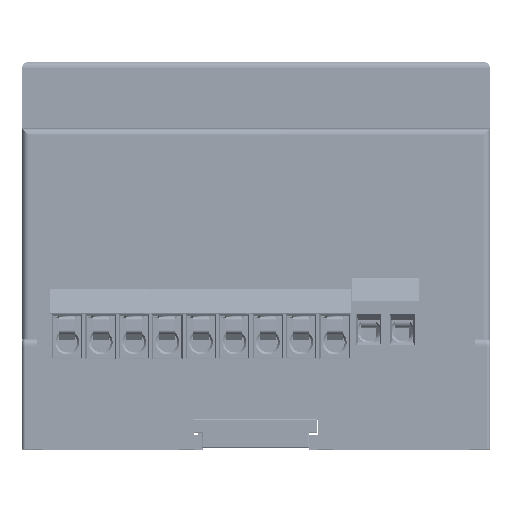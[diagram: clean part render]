
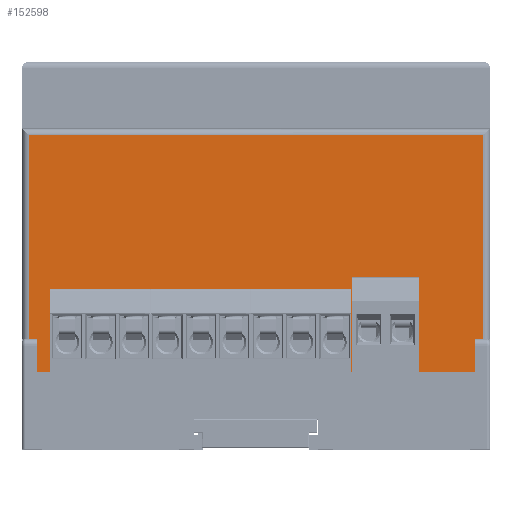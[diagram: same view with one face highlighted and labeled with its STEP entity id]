
A CAD part, top view. The second image highlights one B-rep face of the part: STEP entity #152598.
In plain terms, the highlighted planar face has unit normal (0, 0, 1).
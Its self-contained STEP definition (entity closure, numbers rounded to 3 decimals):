
#1485 = ORIENTED_EDGE ( 'NONE', *, *, #138026, .T. ) ;
#2347 = VERTEX_POINT ( 'NONE', #180969 ) ;
#4109 = CARTESIAN_POINT ( 'NONE',  ( 1., 30.5, 0. ) ) ;
#4410 = LINE ( 'NONE', #123257, #208210 ) ;
#8397 = DIRECTION ( 'NONE',  ( 0., 1., 0. ) ) ;
#18750 = VECTOR ( 'NONE', #81989, 1000. ) ;
#23289 = CARTESIAN_POINT ( 'NONE',  ( 1., -9., 0. ) ) ;
#26821 = CARTESIAN_POINT ( 'NONE',  ( 69., 30.5, 0. ) ) ;
#27036 = ORIENTED_EDGE ( 'NONE', *, *, #94951, .T. ) ;
#27483 = VERTEX_POINT ( 'NONE', #234122 ) ;
#28577 = LINE ( 'NONE', #132168, #76383 ) ;
#30549 = ORIENTED_EDGE ( 'NONE', *, *, #168298, .T. ) ;
#30643 = DIRECTION ( 'NONE',  ( 0., -1., 0. ) ) ;
#32287 = VECTOR ( 'NONE', #70987, 1000. ) ;
#38116 = EDGE_CURVE ( 'NONE', #222408, #208469, #168797, .T. ) ;
#41796 = CARTESIAN_POINT ( 'NONE',  ( 1.5, -6.5, 0. ) ) ;
#48502 = CARTESIAN_POINT ( 'NONE',  ( 69., 31.5, 0. ) ) ;
#54061 = CARTESIAN_POINT ( 'NONE',  ( 1.5, -5., 0. ) ) ;
#59401 = ORIENTED_EDGE ( 'NONE', *, *, #128062, .F. ) ;
#61026 = DIRECTION ( 'NONE',  ( -1., 0., 0. ) ) ;
#62257 = DIRECTION ( 'NONE',  ( 0.707, 0.707, 0. ) ) ;
#62723 = DIRECTION ( 'NONE',  ( 1., 0., 0. ) ) ;
#70987 = DIRECTION ( 'NONE',  ( 0., -1., 0. ) ) ;
#72068 = CARTESIAN_POINT ( 'NONE',  ( 1.5, -5., 0. ) ) ;
#75993 = CARTESIAN_POINT ( 'NONE',  ( 67., -5., 0. ) ) ;
#76383 = VECTOR ( 'NONE', #30643, 1000. ) ;
#77589 = CARTESIAN_POINT ( 'NONE',  ( 0., 31.5, 0. ) ) ;
#81956 = CARTESIAN_POINT ( 'NONE',  ( 69., -9., 0. ) ) ;
#81989 = DIRECTION ( 'NONE',  ( 0., -1., 0. ) ) ;
#86944 = ORIENTED_EDGE ( 'NONE', *, *, #173310, .T. ) ;
#89663 = EDGE_CURVE ( 'NONE', #208185, #251364, #177351, .T. ) ;
#94951 = EDGE_CURVE ( 'NONE', #2347, #222408, #217394, .T. ) ;
#95209 = LINE ( 'NONE', #72068, #142962 ) ;
#98111 = DIRECTION ( 'NONE',  ( 0., 0., -1. ) ) ;
#101737 = CARTESIAN_POINT ( 'NONE',  ( 1.5, -9., 0. ) ) ;
#109095 = VECTOR ( 'NONE', #242775, 1000. ) ;
#114368 = EDGE_CURVE ( 'NONE', #185417, #166899, #28577, .T. ) ;
#114645 = VECTOR ( 'NONE', #8397, 1000. ) ;
#114713 = VECTOR ( 'NONE', #61026, 1000. ) ;
#115857 = VERTEX_POINT ( 'NONE', #101737 ) ;
#120079 = CARTESIAN_POINT ( 'NONE',  ( 70., -9., 0. ) ) ;
#122888 = ORIENTED_EDGE ( 'NONE', *, *, #38116, .T. ) ;
#123257 = CARTESIAN_POINT ( 'NONE',  ( 1.5, -9., 0. ) ) ;
#128062 = EDGE_CURVE ( 'NONE', #27483, #115857, #236112, .T. ) ;
#129338 = EDGE_LOOP ( 'NONE', ( #157745, #86944, #59401, #30549, #229457, #172258, #140016, #27036, #122888, #1485 ) ) ;
#132168 = CARTESIAN_POINT ( 'NONE',  ( 1., 31.5, 0. ) ) ;
#138026 = EDGE_CURVE ( 'NONE', #208469, #185417, #168875, .T. ) ;
#140016 = ORIENTED_EDGE ( 'NONE', *, *, #176010, .T. ) ;
#140815 = DIRECTION ( 'NONE',  ( 0.707, -0.707, 0. ) ) ;
#142962 = VECTOR ( 'NONE', #234922, 1000. ) ;
#144113 = CARTESIAN_POINT ( 'NONE',  ( 3., -5., 0. ) ) ;
#152598 = ADVANCED_FACE ( 'NONE', ( #200339 ), #199557, .F. ) ;
#157745 = ORIENTED_EDGE ( 'NONE', *, *, #114368, .T. ) ;
#166899 = VERTEX_POINT ( 'NONE', #23289 ) ;
#168298 = EDGE_CURVE ( 'NONE', #27483, #174396, #186256, .T. ) ;
#168797 = LINE ( 'NONE', #48502, #114645 ) ;
#168875 = LINE ( 'NONE', #263845, #114713 ) ;
#172258 = ORIENTED_EDGE ( 'NONE', *, *, #89663, .T. ) ;
#173310 = EDGE_CURVE ( 'NONE', #166899, #115857, #4410, .T. ) ;
#174396 = VERTEX_POINT ( 'NONE', #144113 ) ;
#176010 = EDGE_CURVE ( 'NONE', #251364, #2347, #181303, .T. ) ;
#177351 = LINE ( 'NONE', #221824, #237700 ) ;
#180969 = CARTESIAN_POINT ( 'NONE',  ( 68.5, -9., 0. ) ) ;
#181303 = LINE ( 'NONE', #243880, #18750 ) ;
#185417 = VERTEX_POINT ( 'NONE', #4109 ) ;
#186256 = LINE ( 'NONE', #41796, #227478 ) ;
#199557 = PLANE ( 'NONE',  #231486 ) ;
#200339 = FACE_OUTER_BOUND ( 'NONE', #129338, .T. ) ;
#208185 = VERTEX_POINT ( 'NONE', #75993 ) ;
#208210 = VECTOR ( 'NONE', #62723, 1000. ) ;
#208469 = VERTEX_POINT ( 'NONE', #26821 ) ;
#217394 = LINE ( 'NONE', #120079, #109095 ) ;
#221824 = CARTESIAN_POINT ( 'NONE',  ( 67., -5., 0. ) ) ;
#222408 = VERTEX_POINT ( 'NONE', #81956 ) ;
#227478 = VECTOR ( 'NONE', #62257, 1000. ) ;
#229457 = ORIENTED_EDGE ( 'NONE', *, *, #230468, .F. ) ;
#230468 = EDGE_CURVE ( 'NONE', #208185, #174396, #95209, .T. ) ;
#231486 = AXIS2_PLACEMENT_3D ( 'NONE', #77589, #98111, #240404 ) ;
#234122 = CARTESIAN_POINT ( 'NONE',  ( 1.5, -6.5, 0. ) ) ;
#234922 = DIRECTION ( 'NONE',  ( -1., 0., 0. ) ) ;
#236112 = LINE ( 'NONE', #54061, #32287 ) ;
#237700 = VECTOR ( 'NONE', #140815, 1000. ) ;
#240404 = DIRECTION ( 'NONE',  ( -1., 0., 0. ) ) ;
#242775 = DIRECTION ( 'NONE',  ( 1., 0., 0. ) ) ;
#243880 = CARTESIAN_POINT ( 'NONE',  ( 68.5, -5., 0. ) ) ;
#251364 = VERTEX_POINT ( 'NONE', #259685 ) ;
#259685 = CARTESIAN_POINT ( 'NONE',  ( 68.5, -6.5, 0. ) ) ;
#263845 = CARTESIAN_POINT ( 'NONE',  ( 0., 30.5, 0. ) ) ;
